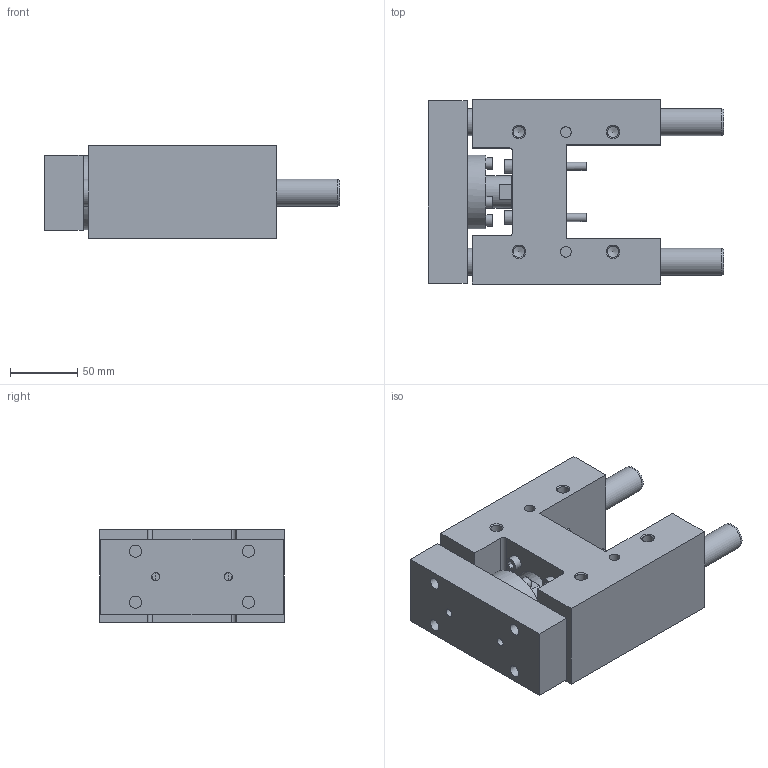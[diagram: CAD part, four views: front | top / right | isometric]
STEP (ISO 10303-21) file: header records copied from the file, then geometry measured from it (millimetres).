
FILE_DESCRIPTION( ( 'STEP AP214' ), '1' );
FILE_NAME( 'U:/Etudes/Top Solid/BIBLIO 3D AVM/TOP/PNEUMATIQUE/GUIDAGES/Type 32 (en H)/R_Renforcée/325R0_30.step', '2005-05-27T08:54:47', ( ' ' ), ( ' ' ), 'XStep 1.0', ' ', ' ' );
FILE_SCHEMA( ( 'automotive_design' ) );
Length unit declared in the file: metre
Products named in the file (2): 1; 2
Bounding box: 220 x 137 x 69 mm (x, y, z)
Volume: 1084436.5 mm3; surface area: 171459.2 mm2
Topology: 2 solids, 7 shells, 223 faces, 504 edges, 337 vertices
Faces by surface type: plane 128, cylinder 74, cone 21
Full cylindrical faces by diameter (mm): 5 x8, 6 x10, 6.5 x8, 6.647 x4, 8 x2, 8.376 x8, 8.5 x4, 9 x4, 10 x4, 10.2 x4, 10.647 x2, 15 x4, 20 x4, 24 x1, 26 x1, 34 x1, 35 x1, 37 x1, 55 x1
Entity records: 7481 total; most frequent: CARTESIAN_POINT 1145, DIRECTION 956, ORIENTED_EDGE 724, EDGE_LOOP 386, AXIS2_PLACEMENT_3D 377, EDGE_CURVE 362, FACE_OUTER_BOUND 295, VERTEX_POINT 294
